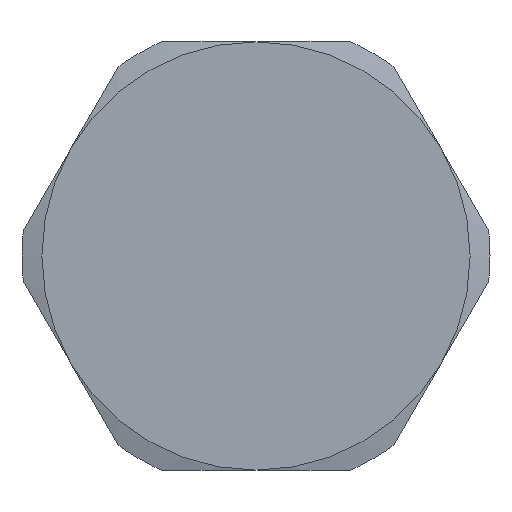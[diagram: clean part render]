
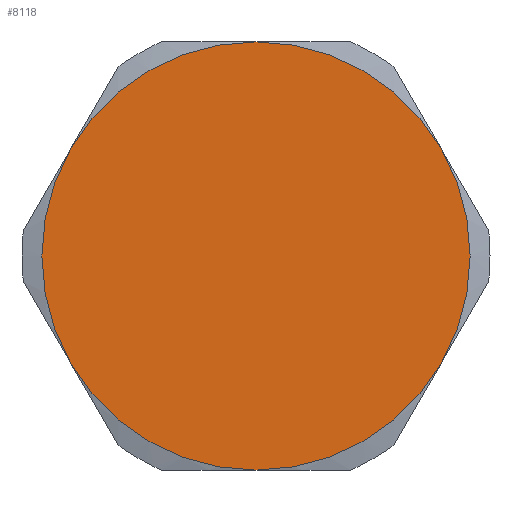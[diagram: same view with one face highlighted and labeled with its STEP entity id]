
A CAD part, left-side view. The second image highlights one B-rep face of the part: STEP entity #8118.
In plain terms, the highlighted planar face has unit normal (-1, 0, 0).
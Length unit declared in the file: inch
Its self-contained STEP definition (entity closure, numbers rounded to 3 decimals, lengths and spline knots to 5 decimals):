
#7606=CARTESIAN_POINT('',(-0.219,-0.43301,0.25));
#7607=VERTEX_POINT('',#7606);
#7631=CARTESIAN_POINT('',(-0.219,0.0,0.5));
#7632=VERTEX_POINT('',#7631);
#7646=CARTESIAN_POINT('',(-0.219,0.0,0.));
#7647=DIRECTION('',(-1.0,0.0,0.0));
#7648=DIRECTION('',(0.0,0.0,1.0));
#7649=AXIS2_PLACEMENT_3D('',#7646,#7647,#7648);
#7650=CIRCLE('',#7649,0.5);
#7651=EDGE_CURVE('',#7607,#7632,#7650,.T.);
#7661=CARTESIAN_POINT('',(-0.219,-0.43301,-0.25));
#7662=VERTEX_POINT('',#7661);
#7699=CARTESIAN_POINT('',(-0.219,0.0,0.));
#7700=DIRECTION('',(-1.0,0.0,0.0));
#7701=DIRECTION('',(0.0,0.0,1.0));
#7702=AXIS2_PLACEMENT_3D('',#7699,#7700,#7701);
#7703=CIRCLE('',#7702,0.5);
#7704=EDGE_CURVE('',#7662,#7607,#7703,.T.);
#7714=CARTESIAN_POINT('',(-0.219,0.0,-0.5));
#7715=VERTEX_POINT('',#7714);
#7752=CARTESIAN_POINT('',(-0.219,0.0,0.));
#7753=DIRECTION('',(-1.0,0.0,0.0));
#7754=DIRECTION('',(0.0,0.0,1.0));
#7755=AXIS2_PLACEMENT_3D('',#7752,#7753,#7754);
#7756=CIRCLE('',#7755,0.5);
#7757=EDGE_CURVE('',#7715,#7662,#7756,.T.);
#7782=CARTESIAN_POINT('',(-0.219,0.43301,-0.25));
#7783=VERTEX_POINT('',#7782);
#7784=CARTESIAN_POINT('',(-0.219,0.0,0.));
#7785=DIRECTION('',(-1.0,0.0,0.0));
#7786=DIRECTION('',(0.0,0.0,1.0));
#7787=AXIS2_PLACEMENT_3D('',#7784,#7785,#7786);
#7788=CIRCLE('',#7787,0.5);
#7789=EDGE_CURVE('',#7783,#7715,#7788,.T.);
#7835=CARTESIAN_POINT('',(-0.219,0.43301,0.25));
#7836=VERTEX_POINT('',#7835);
#7837=CARTESIAN_POINT('',(-0.219,0.0,0.));
#7838=DIRECTION('',(-1.0,0.0,0.0));
#7839=DIRECTION('',(0.0,0.0,1.0));
#7840=AXIS2_PLACEMENT_3D('',#7837,#7838,#7839);
#7841=CIRCLE('',#7840,0.5);
#7842=EDGE_CURVE('',#7836,#7783,#7841,.T.);
#7888=CARTESIAN_POINT('',(-0.219,0.0,0.));
#7889=DIRECTION('',(-1.0,0.0,0.0));
#7890=DIRECTION('',(0.0,0.0,1.0));
#7891=AXIS2_PLACEMENT_3D('',#7888,#7889,#7890);
#7892=CIRCLE('',#7891,0.5);
#7893=EDGE_CURVE('',#7632,#7836,#7892,.T.);
#8105=CARTESIAN_POINT('',(-0.219,0.0,0.0));
#8106=DIRECTION('',(-1.0,0.0,0.0));
#8107=DIRECTION('',(0.0,0.0,1.0));
#8108=AXIS2_PLACEMENT_3D('',#8105,#8106,#8107);
#8109=PLANE('',#8108);
#8110=ORIENTED_EDGE('',*,*,#7893,.T.);
#8111=ORIENTED_EDGE('',*,*,#7842,.T.);
#8112=ORIENTED_EDGE('',*,*,#7789,.T.);
#8113=ORIENTED_EDGE('',*,*,#7757,.T.);
#8114=ORIENTED_EDGE('',*,*,#7704,.T.);
#8115=ORIENTED_EDGE('',*,*,#7651,.T.);
#8116=EDGE_LOOP('',(#8110,#8111,#8112,#8113,#8114,#8115));
#8117=FACE_OUTER_BOUND('',#8116,.T.);
#8118=ADVANCED_FACE('',(#8117),#8109,.T.);
